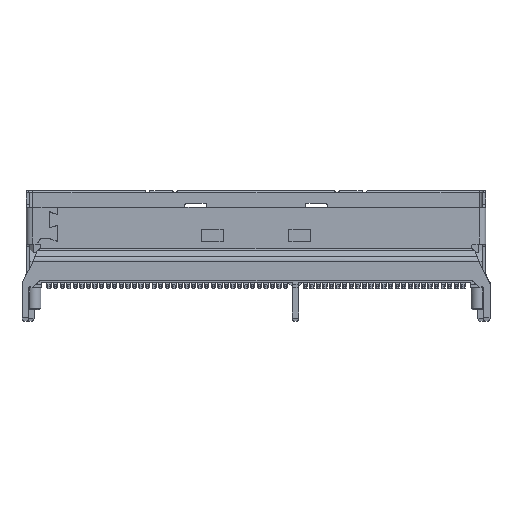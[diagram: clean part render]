
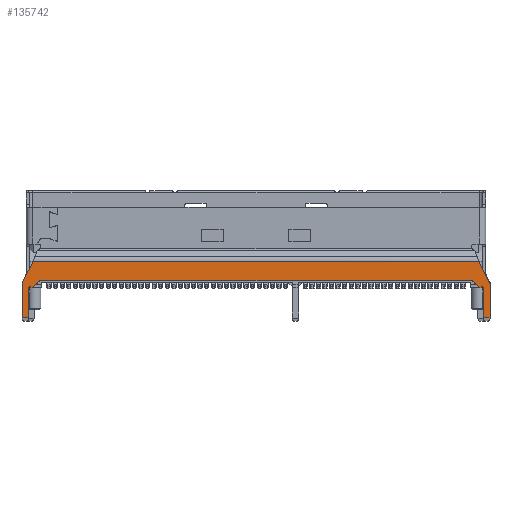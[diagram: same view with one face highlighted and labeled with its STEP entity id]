
A CAD part, top view. The second image highlights one B-rep face of the part: STEP entity #135742.
In plain terms, the highlighted planar face has unit normal (0, 0, 1).
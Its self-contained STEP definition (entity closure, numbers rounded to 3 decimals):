
#4479=DIRECTION('',(-1.,0.,0.));
#4480=VECTOR('',#4479,40.673);
#4481=CARTESIAN_POINT('',(20.336,1.891,3.35));
#4482=LINE('',#4481,#4480);
#4501=CARTESIAN_POINT('',(20.675,-0.53,3.35));
#4502=DIRECTION('',(0.,0.,-1.));
#4503=DIRECTION('',(-1.,0.,0.));
#4504=AXIS2_PLACEMENT_3D('',#4501,#4502,#4503);
#4506=DIRECTION('',(1.,0.,0.));
#4507=VECTOR('',#4506,0.16);
#4508=CARTESIAN_POINT('',(20.415,-0.53,3.35));
#4509=LINE('',#4508,#4507);
#4510=DIRECTION('',(0.695,-0.719,0.));
#4511=VECTOR('',#4510,0.776);
#4512=CARTESIAN_POINT('',(19.876,0.028,3.35));
#4513=LINE('',#4512,#4511);
#4514=CARTESIAN_POINT('',(19.66,-0.18,3.35));
#4515=DIRECTION('',(0.,0.,-1.));
#4516=DIRECTION('',(0.,1.,0.));
#4517=AXIS2_PLACEMENT_3D('',#4514,#4515,#4516);
#4519=DIRECTION('',(1.,0.,0.));
#4520=VECTOR('',#4519,39.32);
#4521=CARTESIAN_POINT('',(-19.66,0.12,3.35));
#4522=LINE('',#4521,#4520);
#4523=CARTESIAN_POINT('',(-19.66,-0.18,3.35));
#4524=DIRECTION('',(0.,0.,-1.));
#4525=DIRECTION('',(-0.719,0.695,0.));
#4526=AXIS2_PLACEMENT_3D('',#4523,#4524,#4525);
#4528=DIRECTION('',(0.695,0.719,0.));
#4529=VECTOR('',#4528,0.776);
#4530=CARTESIAN_POINT('',(-20.415,-0.53,3.35));
#4531=LINE('',#4530,#4529);
#4532=CARTESIAN_POINT('',(-20.675,-0.53,3.35));
#4533=DIRECTION('',(0.,0.,-1.));
#4534=DIRECTION('',(-1.,0.,0.));
#4535=AXIS2_PLACEMENT_3D('',#4532,#4533,#4534);
#4537=DIRECTION('',(-0.466,-0.885,0.));
#4538=VECTOR('',#4537,2.228);
#4539=CARTESIAN_POINT('',(-20.336,1.891,3.35));
#4540=LINE('',#4539,#4538);
#4541=DIRECTION('',(-0.442,0.897,0.));
#4542=VECTOR('',#4541,2.353);
#4543=CARTESIAN_POINT('',(21.375,-0.22,3.35));
#4544=LINE('',#4543,#4542);
#4551=DIRECTION('',(-1.,0.,0.));
#4552=VECTOR('',#4551,0.6);
#4553=CARTESIAN_POINT('',(21.375,-3.28,3.35));
#4554=LINE('',#4553,#4552);
#4613=DIRECTION('',(0.,-1.,0.));
#4614=VECTOR('',#4613,3.06);
#4615=CARTESIAN_POINT('',(21.375,-0.22,3.35));
#4616=LINE('',#4615,#4614);
#4717=DIRECTION('',(0.,-1.,0.));
#4718=VECTOR('',#4717,3.2);
#4719=CARTESIAN_POINT('',(-21.375,-0.08,3.35));
#4720=LINE('',#4719,#4718);
#4767=DIRECTION('',(-1.,0.,0.));
#4768=VECTOR('',#4767,0.6);
#4769=CARTESIAN_POINT('',(-20.775,-3.28,3.35));
#4770=LINE('',#4769,#4768);
#4801=DIRECTION('',(0.,-1.,0.));
#4802=VECTOR('',#4801,2.75);
#4803=CARTESIAN_POINT('',(-20.775,-0.53,3.35));
#4804=LINE('',#4803,#4802);
#4842=DIRECTION('',(1.,0.,0.));
#4843=VECTOR('',#4842,0.16);
#4844=CARTESIAN_POINT('',(-20.575,-0.53,3.35));
#4845=LINE('',#4844,#4843);
#64676=DIRECTION('',(0.,-1.,0.));
#64677=VECTOR('',#64676,2.75);
#64678=CARTESIAN_POINT('',(20.775,-0.53,3.35));
#64679=LINE('',#64678,#64677);
#107523=CARTESIAN_POINT('',(20.415,-0.53,3.35));
#107524=VERTEX_POINT('',#107523);
#107525=CARTESIAN_POINT('',(19.876,0.028,3.35));
#107526=VERTEX_POINT('',#107525);
#107529=CARTESIAN_POINT('',(19.66,0.12,3.35));
#107530=VERTEX_POINT('',#107529);
#107533=CARTESIAN_POINT('',(-19.66,0.12,3.35));
#107534=VERTEX_POINT('',#107533);
#107549=CARTESIAN_POINT('',(-19.876,0.028,3.35));
#107550=VERTEX_POINT('',#107549);
#107555=CARTESIAN_POINT('',(-20.415,-0.53,3.35));
#107556=VERTEX_POINT('',#107555);
#107843=CARTESIAN_POINT('',(20.575,-0.53,3.35));
#107844=VERTEX_POINT('',#107843);
#107845=CARTESIAN_POINT('',(21.375,-3.28,3.35));
#107846=CARTESIAN_POINT('',(20.775,-3.28,3.35));
#107847=VERTEX_POINT('',#107845);
#107848=VERTEX_POINT('',#107846);
#107849=CARTESIAN_POINT('',(20.775,-0.53,3.35));
#107850=VERTEX_POINT('',#107849);
#107851=CARTESIAN_POINT('',(-20.575,-0.53,3.35));
#107852=VERTEX_POINT('',#107851);
#107853=CARTESIAN_POINT('',(-20.775,-0.53,3.35));
#107854=VERTEX_POINT('',#107853);
#107855=CARTESIAN_POINT('',(-20.775,-3.28,3.35));
#107856=VERTEX_POINT('',#107855);
#107857=CARTESIAN_POINT('',(-21.375,-3.28,3.35));
#107858=VERTEX_POINT('',#107857);
#107859=CARTESIAN_POINT('',(-21.375,-0.08,3.35));
#107860=VERTEX_POINT('',#107859);
#107861=CARTESIAN_POINT('',(-20.336,1.891,3.35));
#107862=VERTEX_POINT('',#107861);
#107863=CARTESIAN_POINT('',(20.336,1.891,3.35));
#107864=VERTEX_POINT('',#107863);
#107865=CARTESIAN_POINT('',(21.375,-0.22,3.35));
#107866=VERTEX_POINT('',#107865);
#135700=CARTESIAN_POINT('',(0.,-0.694,3.35));
#135701=DIRECTION('',(0.,0.,1.));
#135702=DIRECTION('',(0.,-1.,0.));
#135703=AXIS2_PLACEMENT_3D('',#135700,#135701,#135702);
#135704=PLANE('',#135703);
#135706=ORIENTED_EDGE('',*,*,#135705,.T.);
#135708=ORIENTED_EDGE('',*,*,#135707,.F.);
#135710=ORIENTED_EDGE('',*,*,#135709,.F.);
#135712=ORIENTED_EDGE('',*,*,#135711,.F.);
#135714=ORIENTED_EDGE('',*,*,#135713,.F.);
#135716=ORIENTED_EDGE('',*,*,#135715,.F.);
#135718=ORIENTED_EDGE('',*,*,#135717,.F.);
#135720=ORIENTED_EDGE('',*,*,#135719,.F.);
#135722=ORIENTED_EDGE('',*,*,#135721,.F.);
#135724=ORIENTED_EDGE('',*,*,#135723,.F.);
#135726=ORIENTED_EDGE('',*,*,#135725,.F.);
#135728=ORIENTED_EDGE('',*,*,#135727,.T.);
#135730=ORIENTED_EDGE('',*,*,#135729,.T.);
#135732=ORIENTED_EDGE('',*,*,#135731,.F.);
#135734=ORIENTED_EDGE('',*,*,#135733,.F.);
#135735=ORIENTED_EDGE('',*,*,#135690,.F.);
#135737=ORIENTED_EDGE('',*,*,#135736,.F.);
#135739=ORIENTED_EDGE('',*,*,#135738,.T.);
#135740=EDGE_LOOP('',(#135706,#135708,#135710,#135712,#135714,#135716,#135718,
#135720,#135722,#135724,#135726,#135728,#135730,#135732,#135734,#135735,#135737,
#135739));
#135741=FACE_OUTER_BOUND('',#135740,.F.);
#4505=CIRCLE('',#4504,0.1);
#4518=CIRCLE('',#4517,0.3);
#4527=CIRCLE('',#4526,0.3);
#4536=CIRCLE('',#4535,0.1);
#135690=EDGE_CURVE('',#107864,#107862,#4482,.T.);
#135705=EDGE_CURVE('',#107847,#107848,#4554,.T.);
#135707=EDGE_CURVE('',#107850,#107848,#64679,.T.);
#135709=EDGE_CURVE('',#107844,#107850,#4505,.T.);
#135711=EDGE_CURVE('',#107524,#107844,#4509,.T.);
#135713=EDGE_CURVE('',#107526,#107524,#4513,.T.);
#135715=EDGE_CURVE('',#107530,#107526,#4518,.T.);
#135717=EDGE_CURVE('',#107534,#107530,#4522,.T.);
#135719=EDGE_CURVE('',#107550,#107534,#4527,.T.);
#135721=EDGE_CURVE('',#107556,#107550,#4531,.T.);
#135723=EDGE_CURVE('',#107852,#107556,#4845,.T.);
#135725=EDGE_CURVE('',#107854,#107852,#4536,.T.);
#135727=EDGE_CURVE('',#107854,#107856,#4804,.T.);
#135729=EDGE_CURVE('',#107856,#107858,#4770,.T.);
#135731=EDGE_CURVE('',#107860,#107858,#4720,.T.);
#135733=EDGE_CURVE('',#107862,#107860,#4540,.T.);
#135736=EDGE_CURVE('',#107866,#107864,#4544,.T.);
#135738=EDGE_CURVE('',#107866,#107847,#4616,.T.);
#135742=ADVANCED_FACE('',(#135741),#135704,.T.);
